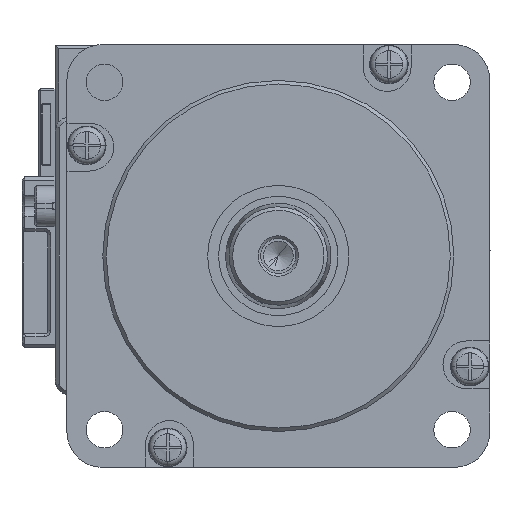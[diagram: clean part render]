
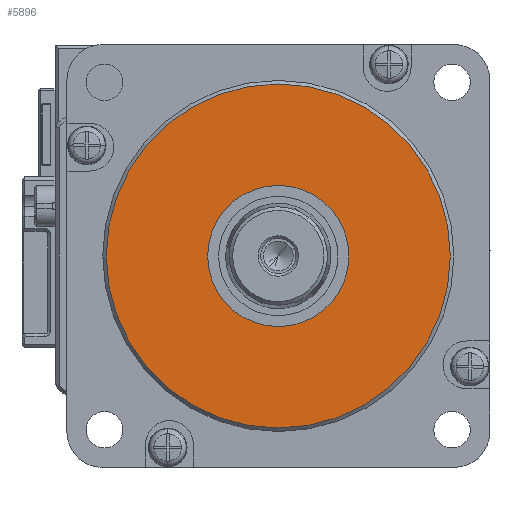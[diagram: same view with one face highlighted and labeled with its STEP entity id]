
A CAD part, left-side view. The second image highlights one B-rep face of the part: STEP entity #5896.
In plain terms, the highlighted planar face has unit normal (-1, 0, 0) as drawn and (0, 0, -1) by its records, which use the part's own axes.
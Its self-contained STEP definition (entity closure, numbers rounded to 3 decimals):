
#3730 = EDGE_CURVE ( 'NONE', #21552, #21552, #20314, .T. ) ;
#5896 = ADVANCED_FACE ( 'NONE', ( #22986, #36374 ), #8113, .F. ) ;
#7895 = CIRCLE ( 'NONE', #53423, 24.5 ) ;
#8113 = PLANE ( 'NONE',  #28952 ) ;
#12365 = AXIS2_PLACEMENT_3D ( 'NONE', #27439, #50721, #60615 ) ;
#17413 = CARTESIAN_POINT ( 'NONE',  ( 0., 0., 0. ) ) ;
#19926 = DIRECTION ( 'NONE',  ( 0., 0., -1. ) ) ;
#20314 = CIRCLE ( 'NONE', #12365, 10.051 ) ;
#21161 = EDGE_LOOP ( 'NONE', ( #52013 ) ) ;
#21552 = VERTEX_POINT ( 'NONE', #54119 ) ;
#22986 = FACE_OUTER_BOUND ( 'NONE', #21161, .T. ) ;
#24401 = EDGE_LOOP ( 'NONE', ( #34212 ) ) ;
#25192 = DIRECTION ( 'NONE',  ( 1., 0., 0. ) ) ;
#27439 = CARTESIAN_POINT ( 'NONE',  ( 0., 0., 0. ) ) ;
#27649 = DIRECTION ( 'NONE',  ( 1., 0., 0. ) ) ;
#28952 = AXIS2_PLACEMENT_3D ( 'NONE', #17413, #45978, #27649 ) ;
#34212 = ORIENTED_EDGE ( 'NONE', *, *, #3730, .T. ) ;
#36374 = FACE_BOUND ( 'NONE', #24401, .T. ) ;
#39559 = VERTEX_POINT ( 'NONE', #58465 ) ;
#45978 = DIRECTION ( 'NONE',  ( 0., 0., 1. ) ) ;
#50721 = DIRECTION ( 'NONE',  ( 0., 0., 1. ) ) ;
#52013 = ORIENTED_EDGE ( 'NONE', *, *, #60748, .T. ) ;
#53423 = AXIS2_PLACEMENT_3D ( 'NONE', #54333, #19926, #25192 ) ;
#54119 = CARTESIAN_POINT ( 'NONE',  ( 10.051, 0., 0. ) ) ;
#54333 = CARTESIAN_POINT ( 'NONE',  ( 0., 0., 0. ) ) ;
#58465 = CARTESIAN_POINT ( 'NONE',  ( 24.5, 0., 0. ) ) ;
#60615 = DIRECTION ( 'NONE',  ( 1., 0., 0. ) ) ;
#60748 = EDGE_CURVE ( 'NONE', #39559, #39559, #7895, .T. ) ;
